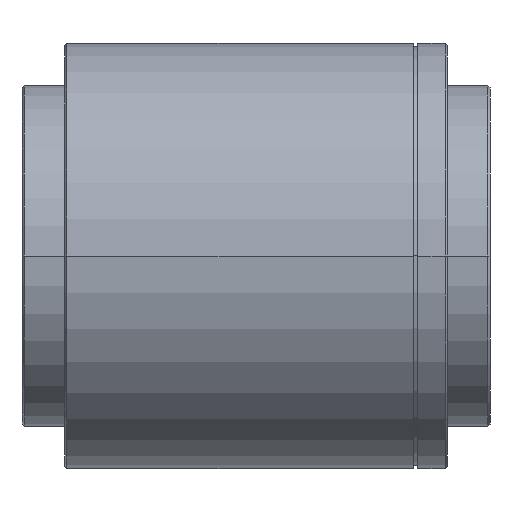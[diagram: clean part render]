
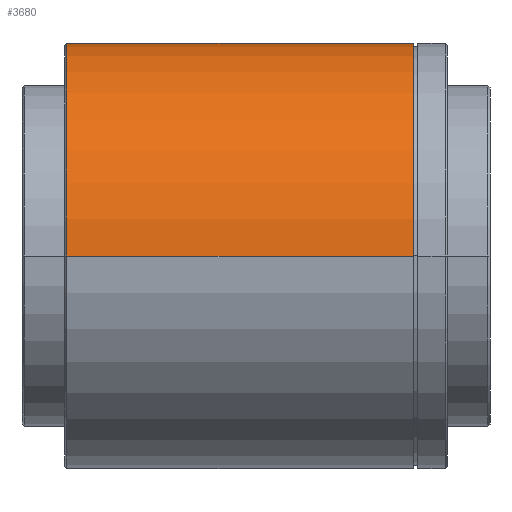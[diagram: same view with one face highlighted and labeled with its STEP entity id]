
A CAD part, left-side view. The second image highlights one B-rep face of the part: STEP entity #3680.
In plain terms, the highlighted cylindrical face has radius 10 mm (diameter 20 mm), a partial arc.
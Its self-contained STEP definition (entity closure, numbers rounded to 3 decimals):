
#23 = DIRECTION ( 'NONE',  ( 1., 0., 0. ) ) ;
#495 = FACE_OUTER_BOUND ( 'NONE', #2020, .T. ) ;
#712 = DIRECTION ( 'NONE',  ( 0., 1., 0. ) ) ;
#1070 = DIRECTION ( 'NONE',  ( 0., 1., 0. ) ) ;
#1745 = CARTESIAN_POINT ( 'NONE',  ( 0., 8.9, 0. ) ) ;
#2020 = EDGE_LOOP ( 'NONE', ( #16520, #8095, #11561, #2263 ) ) ;
#2263 = ORIENTED_EDGE ( 'NONE', *, *, #12352, .F. ) ;
#3147 = DIRECTION ( 'NONE',  ( 1., 0., 0. ) ) ;
#3506 = VERTEX_POINT ( 'NONE', #18334 ) ;
#3680 = ADVANCED_FACE ( 'NONE', ( #495 ), #8612, .T. ) ;
#4800 = VECTOR ( 'NONE', #21398, 1000. ) ;
#5819 = AXIS2_PLACEMENT_3D ( 'NONE', #11381, #17955, #3147 ) ;
#5944 = EDGE_CURVE ( 'NONE', #7896, #6319, #11141, .T. ) ;
#6319 = VERTEX_POINT ( 'NONE', #7211 ) ;
#6590 = LINE ( 'NONE', #18046, #4800 ) ;
#6896 = VECTOR ( 'NONE', #1070, 1000. ) ;
#7095 = CARTESIAN_POINT ( 'NONE',  ( 0., 11., 0. ) ) ;
#7211 = CARTESIAN_POINT ( 'NONE',  ( 10., 8.9, 0. ) ) ;
#7896 = VERTEX_POINT ( 'NONE', #19686 ) ;
#8095 = ORIENTED_EDGE ( 'NONE', *, *, #5944, .T. ) ;
#8612 = CYLINDRICAL_SURFACE ( 'NONE', #14444, 10. ) ;
#9771 = DIRECTION ( 'NONE',  ( 0., -1., 0. ) ) ;
#10167 = CIRCLE ( 'NONE', #18435, 10. ) ;
#10473 = EDGE_CURVE ( 'NONE', #6319, #12100, #10167, .T. ) ;
#11141 = LINE ( 'NONE', #19545, #6896 ) ;
#11381 = CARTESIAN_POINT ( 'NONE',  ( 0., -7.4, 0. ) ) ;
#11561 = ORIENTED_EDGE ( 'NONE', *, *, #10473, .T. ) ;
#12100 = VERTEX_POINT ( 'NONE', #19252 ) ;
#12297 = DIRECTION ( 'NONE',  ( -1., 0., 0. ) ) ;
#12352 = EDGE_CURVE ( 'NONE', #3506, #12100, #6590, .T. ) ;
#14444 = AXIS2_PLACEMENT_3D ( 'NONE', #7095, #712, #12297 ) ;
#14717 = EDGE_CURVE ( 'NONE', #7896, #3506, #16866, .T. ) ;
#16520 = ORIENTED_EDGE ( 'NONE', *, *, #14717, .F. ) ;
#16866 = CIRCLE ( 'NONE', #5819, 10. ) ;
#17955 = DIRECTION ( 'NONE',  ( 0., -1., 0. ) ) ;
#18046 = CARTESIAN_POINT ( 'NONE',  ( -10., 11., 0. ) ) ;
#18334 = CARTESIAN_POINT ( 'NONE',  ( -10., -7.4, 0. ) ) ;
#18435 = AXIS2_PLACEMENT_3D ( 'NONE', #1745, #9771, #23 ) ;
#19252 = CARTESIAN_POINT ( 'NONE',  ( -10., 8.9, 0. ) ) ;
#19545 = CARTESIAN_POINT ( 'NONE',  ( 10., 11., 0. ) ) ;
#19686 = CARTESIAN_POINT ( 'NONE',  ( 10., -7.4, 0. ) ) ;
#21398 = DIRECTION ( 'NONE',  ( 0., 1., 0. ) ) ;
